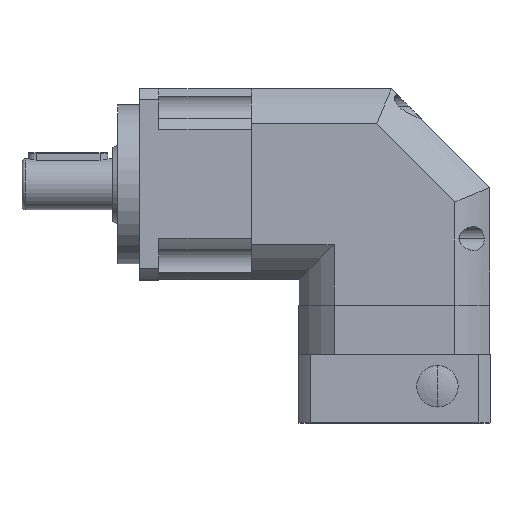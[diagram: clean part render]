
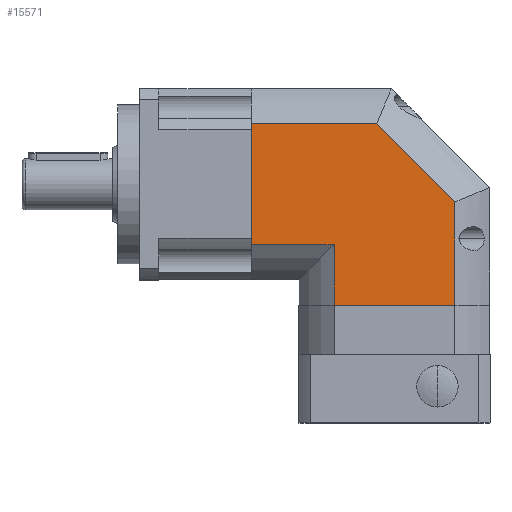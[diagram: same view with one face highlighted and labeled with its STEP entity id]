
A CAD part, top view. The second image highlights one B-rep face of the part: STEP entity #15571.
In plain terms, the highlighted planar face has unit normal (0, 0, 1).
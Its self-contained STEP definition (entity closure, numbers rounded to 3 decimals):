
#154 = EDGE_CURVE ( 'NONE', #678, #15166, #11534, .T. ) ;
#171 = VERTEX_POINT ( 'NONE', #3027 ) ;
#269 = EDGE_CURVE ( 'NONE', #678, #16571, #5734, .T. ) ;
#521 = VERTEX_POINT ( 'NONE', #20798 ) ;
#624 = DIRECTION ( 'NONE',  ( -0.707, 0.707, 0. ) ) ;
#678 = VERTEX_POINT ( 'NONE', #908 ) ;
#908 = CARTESIAN_POINT ( 'NONE',  ( 26.02, -18.98, 30. ) ) ;
#1216 = CARTESIAN_POINT ( 'NONE',  ( 63.98, -5.564, 30. ) ) ;
#1221 = CARTESIAN_POINT ( 'NONE',  ( 0., 0., 30. ) ) ;
#3027 = CARTESIAN_POINT ( 'NONE',  ( 0., 18.98, 30. ) ) ;
#4001 = CARTESIAN_POINT ( 'NONE',  ( 0., -18.98, 30. ) ) ;
#4426 = PLANE ( 'NONE',  #17189 ) ;
#4569 = ORIENTED_EDGE ( 'NONE', *, *, #18044, .T. ) ;
#5413 = LINE ( 'NONE', #11868, #8660 ) ;
#5734 = LINE ( 'NONE', #9703, #14283 ) ;
#6136 = DIRECTION ( 'NONE',  ( 0., -1., 0. ) ) ;
#6286 = EDGE_CURVE ( 'NONE', #16571, #521, #5413, .T. ) ;
#7227 = VECTOR ( 'NONE', #14209, 1000. ) ;
#7438 = ORIENTED_EDGE ( 'NONE', *, *, #18820, .T. ) ;
#7594 = VERTEX_POINT ( 'NONE', #13543 ) ;
#7632 = DIRECTION ( 'NONE',  ( 0., 0., 1. ) ) ;
#8066 = ORIENTED_EDGE ( 'NONE', *, *, #6286, .T. ) ;
#8660 = VECTOR ( 'NONE', #13496, 1000. ) ;
#8728 = VECTOR ( 'NONE', #18835, 1000. ) ;
#9238 = LINE ( 'NONE', #1221, #8728 ) ;
#9703 = CARTESIAN_POINT ( 'NONE',  ( 26.02, 30.002, 30. ) ) ;
#10022 = VECTOR ( 'NONE', #624, 1000. ) ;
#10506 = VECTOR ( 'NONE', #19482, 1000. ) ;
#10524 = ORIENTED_EDGE ( 'NONE', *, *, #154, .F. ) ;
#11534 = LINE ( 'NONE', #17347, #7227 ) ;
#11868 = CARTESIAN_POINT ( 'NONE',  ( 0., -38., 30. ) ) ;
#12323 = VECTOR ( 'NONE', #6136, 1000. ) ;
#12724 = ORIENTED_EDGE ( 'NONE', *, *, #18463, .T. ) ;
#13081 = ORIENTED_EDGE ( 'NONE', *, *, #17758, .F. ) ;
#13147 = CARTESIAN_POINT ( 'NONE',  ( 75., 18.98, 30. ) ) ;
#13278 = CARTESIAN_POINT ( 'NONE',  ( 26.02, -38., 30. ) ) ;
#13496 = DIRECTION ( 'NONE',  ( 1., 0., 0. ) ) ;
#13543 = CARTESIAN_POINT ( 'NONE',  ( 39.436, 18.98, 30. ) ) ;
#13629 = EDGE_LOOP ( 'NONE', ( #8066, #13081, #4569, #12724, #7438, #10524, #15967 ) ) ;
#14209 = DIRECTION ( 'NONE',  ( -1., 0., 0. ) ) ;
#14283 = VECTOR ( 'NONE', #16072, 1000. ) ;
#14297 = LINE ( 'NONE', #16634, #10022 ) ;
#14922 = FACE_OUTER_BOUND ( 'NONE', #13629, .T. ) ;
#15166 = VERTEX_POINT ( 'NONE', #4001 ) ;
#15571 = ADVANCED_FACE ( 'NONE', ( #14922 ), #4426, .T. ) ;
#15741 = CARTESIAN_POINT ( 'NONE',  ( 63.98, 30.001, 30. ) ) ;
#15967 = ORIENTED_EDGE ( 'NONE', *, *, #269, .T. ) ;
#16052 = LINE ( 'NONE', #15741, #12323 ) ;
#16072 = DIRECTION ( 'NONE',  ( 0., -1., 0. ) ) ;
#16076 = VERTEX_POINT ( 'NONE', #1216 ) ;
#16571 = VERTEX_POINT ( 'NONE', #13278 ) ;
#16634 = CARTESIAN_POINT ( 'NONE',  ( 85.708, -27.292, 30. ) ) ;
#17189 = AXIS2_PLACEMENT_3D ( 'NONE', #17262, #7632, #18845 ) ;
#17262 = CARTESIAN_POINT ( 'NONE',  ( 0., 0., 30. ) ) ;
#17347 = CARTESIAN_POINT ( 'NONE',  ( 30.586, -18.98, 30. ) ) ;
#17758 = EDGE_CURVE ( 'NONE', #16076, #521, #16052, .T. ) ;
#18044 = EDGE_CURVE ( 'NONE', #16076, #7594, #14297, .T. ) ;
#18463 = EDGE_CURVE ( 'NONE', #7594, #171, #19018, .T. ) ;
#18820 = EDGE_CURVE ( 'NONE', #171, #15166, #9238, .T. ) ;
#18835 = DIRECTION ( 'NONE',  ( 0., -1., 0. ) ) ;
#18845 = DIRECTION ( 'NONE',  ( 1., 0., 0. ) ) ;
#19018 = LINE ( 'NONE', #13147, #10506 ) ;
#19482 = DIRECTION ( 'NONE',  ( -1., 0., 0. ) ) ;
#20798 = CARTESIAN_POINT ( 'NONE',  ( 63.98, -38., 30. ) ) ;
